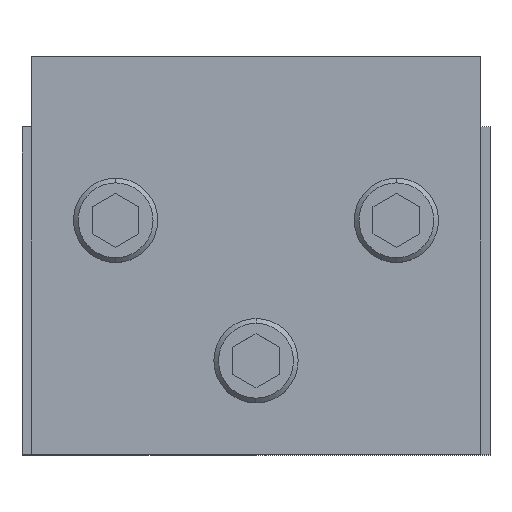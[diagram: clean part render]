
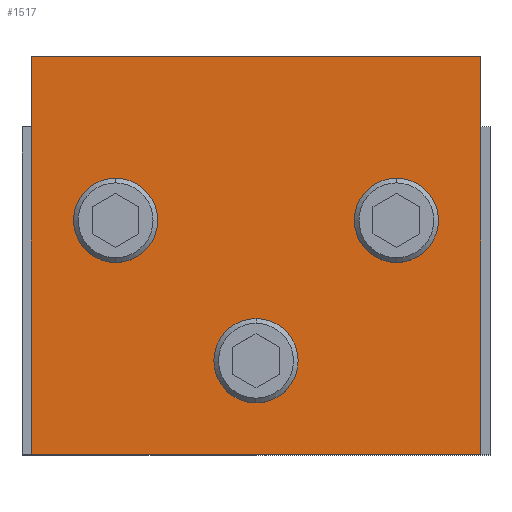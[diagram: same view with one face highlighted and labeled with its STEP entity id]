
A CAD part, top view. The second image highlights one B-rep face of the part: STEP entity #1517.
In plain terms, the highlighted planar face has unit normal (0, 0, 1).
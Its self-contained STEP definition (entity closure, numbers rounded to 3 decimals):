
#1292=VERTEX_POINT(' ',#1293);
#1293=CARTESIAN_POINT('',(-48.,85.,115.));
#1294=VERTEX_POINT(' ',#1295);
#1295=CARTESIAN_POINT('',(-48.,0.,115.));
#1296=VERTEX_POINT(' ',#1297);
#1297=CARTESIAN_POINT('',(48.,0.,115.));
#1298=VERTEX_POINT(' ',#1299);
#1299=CARTESIAN_POINT('',(48.,85.,115.));
#1300=VERTEX_POINT(' ',#1301);
#1301=CARTESIAN_POINT('',(-30.,56.5,115.));
#1302=VERTEX_POINT(' ',#1303);
#1303=CARTESIAN_POINT('',(-30.,43.5,115.));
#1304=VERTEX_POINT(' ',#1305);
#1305=CARTESIAN_POINT('',(30.,56.5,115.));
#1306=VERTEX_POINT(' ',#1307);
#1307=CARTESIAN_POINT('',(30.,43.5,115.));
#1308=VERTEX_POINT(' ',#1309);
#1309=CARTESIAN_POINT('',(0.,26.5,115.));
#1310=VERTEX_POINT(' ',#1311);
#1311=CARTESIAN_POINT('',(0.,13.5,115.));
#1332=LINE('',#1333,#1334);
#1333=CARTESIAN_POINT('',(-48.,85.,115.));
#1334=VECTOR('',#1335,1.);
#1335=DIRECTION('',(0.,-1.,0.));
#1336=EDGE_CURVE(' ',#1292,#1294,#1332,.T.);
#1337=LINE('',#1338,#1339);
#1338=CARTESIAN_POINT('',(-48.,0.,115.));
#1339=VECTOR('',#1340,1.);
#1340=DIRECTION('',(1.,0.,0.));
#1341=EDGE_CURVE(' ',#1294,#1296,#1337,.T.);
#1342=LINE('',#1343,#1344);
#1343=CARTESIAN_POINT('',(48.,0.,115.));
#1344=VECTOR('',#1345,1.);
#1345=DIRECTION('',(0.,1.,0.));
#1346=EDGE_CURVE(' ',#1296,#1298,#1342,.T.);
#1347=LINE('',#1348,#1349);
#1348=CARTESIAN_POINT('',(48.,85.,115.));
#1349=VECTOR('',#1350,1.);
#1350=DIRECTION('',(-1.,0.,0.));
#1351=EDGE_CURVE(' ',#1298,#1292,#1347,.T.);
#1352=CIRCLE('',#1353,6.5);
#1353=AXIS2_PLACEMENT_3D('',#1354,#1355,#1356);
#1354=CARTESIAN_POINT('',(-30.,50.,115.));
#1355=DIRECTION('',(0.,0.,-1.));
#1356=DIRECTION('',(-1.,0.,0.));
#1357=EDGE_CURVE(' ',#1300,#1302,#1352,.T.);
#1358=CIRCLE('',#1359,6.5);
#1359=AXIS2_PLACEMENT_3D('',#1360,#1361,#1362);
#1360=CARTESIAN_POINT('',(-30.,50.,115.));
#1361=DIRECTION('',(0.,0.,-1.));
#1362=DIRECTION('',(1.,0.,0.));
#1363=EDGE_CURVE(' ',#1302,#1300,#1358,.T.);
#1364=CIRCLE('',#1365,6.5);
#1365=AXIS2_PLACEMENT_3D('',#1366,#1367,#1368);
#1366=CARTESIAN_POINT('',(30.,50.,115.));
#1367=DIRECTION('',(0.,0.,-1.));
#1368=DIRECTION('',(-1.,0.,0.));
#1369=EDGE_CURVE(' ',#1304,#1306,#1364,.T.);
#1370=CIRCLE('',#1371,6.5);
#1371=AXIS2_PLACEMENT_3D('',#1372,#1373,#1374);
#1372=CARTESIAN_POINT('',(30.,50.,115.));
#1373=DIRECTION('',(0.,0.,-1.));
#1374=DIRECTION('',(1.,0.,0.));
#1375=EDGE_CURVE(' ',#1306,#1304,#1370,.T.);
#1376=CIRCLE('',#1377,6.5);
#1377=AXIS2_PLACEMENT_3D('',#1378,#1379,#1380);
#1378=CARTESIAN_POINT('',(0.,20.,115.));
#1379=DIRECTION('',(0.,0.,-1.));
#1380=DIRECTION('',(-1.,0.,0.));
#1381=EDGE_CURVE(' ',#1308,#1310,#1376,.T.);
#1382=CIRCLE('',#1383,6.5);
#1383=AXIS2_PLACEMENT_3D('',#1384,#1385,#1386);
#1384=CARTESIAN_POINT('',(0.,20.,115.));
#1385=DIRECTION('',(0.,0.,-1.));
#1386=DIRECTION('',(1.,0.,0.));
#1387=EDGE_CURVE(' ',#1310,#1308,#1382,.T.);
#1494=ORIENTED_EDGE('',*,*,#1336,.T.);
#1495=ORIENTED_EDGE('',*,*,#1341,.T.);
#1496=ORIENTED_EDGE('',*,*,#1346,.T.);
#1497=ORIENTED_EDGE('',*,*,#1351,.T.);
#1498=EDGE_LOOP('',(#1494,#1495,#1496,#1497));
#1499=FACE_OUTER_BOUND('',#1498,.T.);
#1500=ORIENTED_EDGE('',*,*,#1357,.T.);
#1501=ORIENTED_EDGE('',*,*,#1363,.T.);
#1502=EDGE_LOOP('',(#1500,#1501));
#1503=FACE_BOUND('',#1502,.T.);
#1504=ORIENTED_EDGE('',*,*,#1369,.T.);
#1505=ORIENTED_EDGE('',*,*,#1375,.T.);
#1506=EDGE_LOOP('',(#1504,#1505));
#1507=FACE_BOUND('',#1506,.T.);
#1508=ORIENTED_EDGE('',*,*,#1381,.T.);
#1509=ORIENTED_EDGE('',*,*,#1387,.T.);
#1510=EDGE_LOOP('',(#1508,#1509));
#1511=FACE_BOUND('',#1510,.T.);
#1512=PLANE('',#1513);
#1513=AXIS2_PLACEMENT_3D('',#1514,#1515,#1516);
#1514=CARTESIAN_POINT('',(-48.,85.,115.));
#1515=DIRECTION('',(0.,0.,1.));
#1516=DIRECTION('',(1.,0.,0.));
#1517=ADVANCED_FACE('',(#1499,#1503,#1507,#1511),#1512,.T.);
